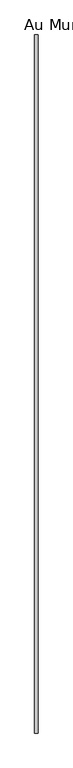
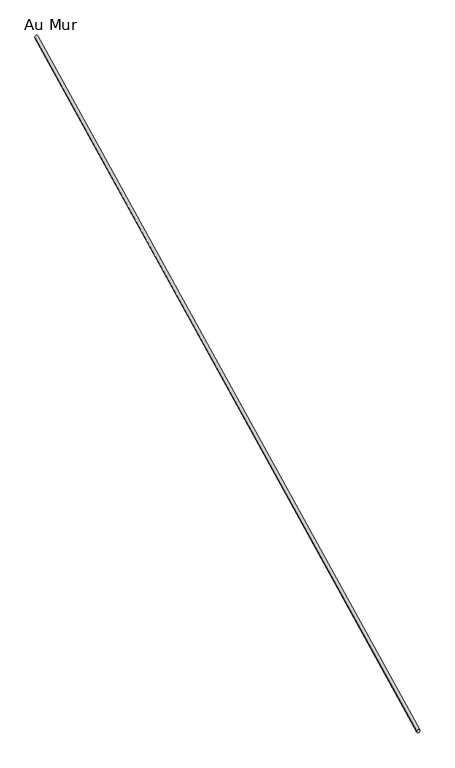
"""IFC4 building model written with IfcOpenShell, lengths in millimetres: railing geometry, Au Mur."""

from ifc_helpers import new_model, si_unit, frame, origin, place, context, project, spatial, ellipse_curve, source, transform, mapped, element, save
from ifc_brep_helpers import plane_surface, cylinder_surface, advanced_brep


def au_mur_74572a88(model_context):
    return source(origin(), model_context, "Body", "AdvancedBrep", [
        advanced_brep(
        [(-5934.389171, -5435.5708354, 1937.9837172), (-5904.389171, -5435.5708354, 1937.9837172), (-5934.389171, 1004.4291646, 5167.0927549), (-5904.389171, 1004.4291646, 5167.0927549)],
        [
            (0, 1, ellipse_curve(frame((-5919.389171, -5435.5708354, 1937.9837172), z_axis=(0.0, -1.0, 0.0), x_axis=(0.0, 0.0, -1.0)), 16.780009, 15.0)),
            (1, 0, ellipse_curve(frame((-5919.389171, -5435.5708354, 1937.9837172), z_axis=(0.0, -1.0, 0.0), x_axis=(0.0, 0.0, -1.0)), 16.780009, 15.0)),
            (2, 3, ellipse_curve(frame((-5919.389171, 1004.4291646, 5167.0927549), z_axis=(0.0, 1.0, 0.0), x_axis=(0.0, 0.0, -1.0)), 16.780009, 15.0)),
            (3, 2, ellipse_curve(frame((-5919.389171, 1004.4291646, 5167.0927549), z_axis=(0.0, 1.0, 0.0), x_axis=(0.0, 0.0, -1.0)), 16.780009, 15.0)),
            (0, 2),
            (3, 1),
        ],
        [
            plane_surface(frame((-5919.389171, -5435.5708354, 1954.7637261), z_axis=(0.0, -1.0, 0.0), x_axis=(0.0, 0.0, 1.0))),
            plane_surface(frame((-5919.389171, 1004.4291646, 5183.8727639), z_axis=(0.0, 1.0, 0.0), x_axis=(0.0, 0.0, 1.0))),
            cylinder_surface(frame((-5919.389171, -5428.8474629, 1941.3549133), z_axis=(0.0, -0.8939208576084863, -0.44822483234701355), x_axis=(1.0, 0.0, 0.0)), 15.0),
        ],
        [
            (0, [[1, 2]]),
            (1, [[3, 4]]),
            (2, [[-1, 5, -4, 6]]),
            (2, [[-2, -6, -3, -5]]),
        ],
    ),
    ])


if __name__ == "__main__":
    model = new_model("IFC4")
    model_context = context("Model", 3, world=origin())
    ifc_project = project(units=[si_unit("LENGTHUNIT", "METRE", prefix="MILLI")], contexts=[model_context])
    site = spatial("IfcSite", under=ifc_project)
    building = spatial("IfcBuilding", under=site)
    placement = place(None, origin())
    au_mur_shape = au_mur_74572a88(model_context)
    element("IfcRailing", 1, ObjectType="Au Mur", at=placement, inside=building, context=model_context, shape_type="MappedRepresentation", body=[
        mapped(au_mur_shape, transform((0.0, 0.0, 0.0), x_axis=(1.0, 0.0, 0.0), y_axis=(0.0, 1.0, 0.0), z_axis=(0.0, 0.0, 1.0))),
    ])
    save(model, "model.ifc")
